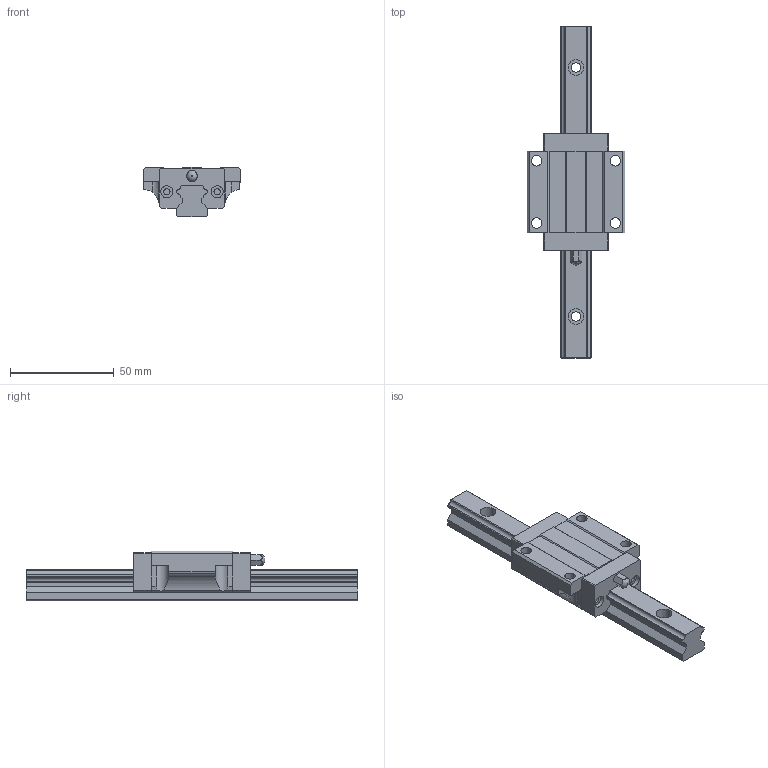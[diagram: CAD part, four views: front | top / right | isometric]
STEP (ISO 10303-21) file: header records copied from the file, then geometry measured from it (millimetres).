
FILE_DESCRIPTION(/* description */ (''),/* implementation_level */ '2;1');
FILE_NAME(/* name */ 'MSA15E',/* time_stamp */ '2005-12-22T11:42:09+08:00',/* author */ (''),/* organization */ (''),/* preprocessor_version */ 'ST-DEVELOPER v9',/* originating_system */ 'UGS - NX 3.0',/* authorisation */ '');
FILE_SCHEMA (('CONFIG_CONTROL_DESIGN'));
Length unit declared in the file: millimetre
Products named in the file (1): kevi8336vqxo
Bounding box: 47 x 160 x 24 mm (x, y, z)
Volume: 61518.7 mm3; surface area: 21056.5 mm2
Topology: 3 solids, 3 shells, 148 faces, 391 edges, 261 vertices
Faces by surface type: plane 105, cylinder 41, sphere 2
Full cylindrical faces by diameter (mm): 3 x4, 4.5 x3, 5 x4, 5.8 x4, 7.5 x3
Entity records: 4586 total; most frequent: CARTESIAN_POINT 811, DIRECTION 746, ORIENTED_EDGE 742, EDGE_CURVE 371, LINE 278, VECTOR 278, VERTEX_POINT 259, AXIS2_PLACEMENT_3D 234
